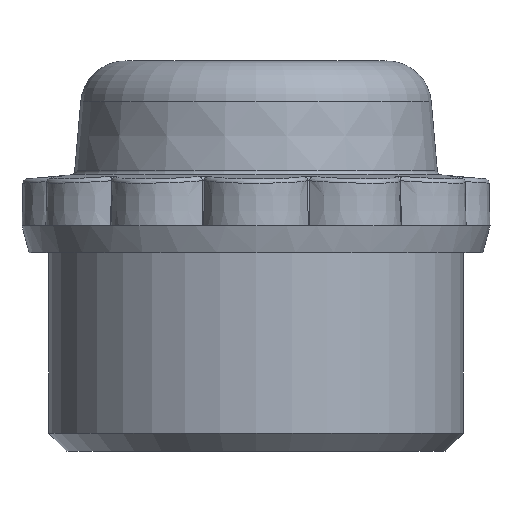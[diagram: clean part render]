
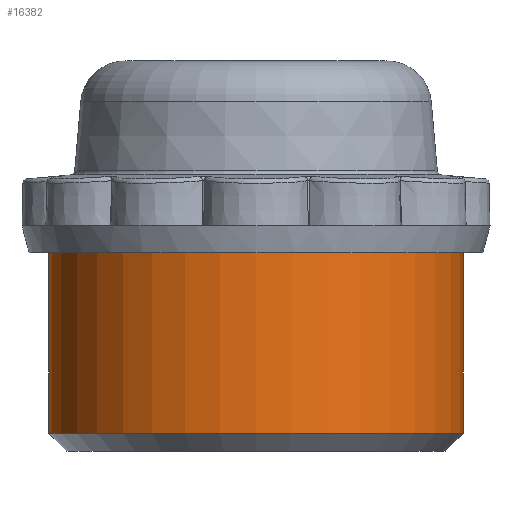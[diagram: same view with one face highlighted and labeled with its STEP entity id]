
A CAD part, left-side view. The second image highlights one B-rep face of the part: STEP entity #16382.
In plain terms, the highlighted cylindrical face has radius 9.3 mm (diameter 18.6 mm), a partial arc.
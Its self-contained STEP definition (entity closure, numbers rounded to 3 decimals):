
#16318 = EDGE_CURVE ( 'NONE', #16343, #16319, #18135, .T. ) ;
#16319 = VERTEX_POINT ( 'NONE', #18131 ) ;
#16322 = VERTEX_POINT ( 'NONE', #18125 ) ;
#16324 = EDGE_CURVE ( 'NONE', #16385, #16322, #18124, .T. ) ;
#16343 = VERTEX_POINT ( 'NONE', #18264 ) ;
#16367 = ORIENTED_EDGE ( 'NONE', *, *, #16381, .T. ) ;
#16368 = ORIENTED_EDGE ( 'NONE', *, *, #16324, .T. ) ;
#16369 = ORIENTED_EDGE ( 'NONE', *, *, #16370, .F. ) ;
#16370 = EDGE_CURVE ( 'NONE', #16319, #16322, #18086, .T. ) ;
#16381 = EDGE_CURVE ( 'NONE', #16343, #16385, #18212, .T. ) ;
#16382 = ADVANCED_FACE ( 'NONE', ( #18203 ), #18248, .T. ) ;
#16383 = EDGE_LOOP ( 'NONE', ( #16384, #16367, #16368, #16369 ) ) ;
#16384 = ORIENTED_EDGE ( 'NONE', *, *, #16318, .F. ) ;
#16385 = VERTEX_POINT ( 'NONE', #18243 ) ;
#18082 = DIRECTION ( 'NONE',  ( 0., -1., 0. ) ) ;
#18083 = DIRECTION ( 'NONE',  ( 0., 0., 1. ) ) ;
#18084 = CARTESIAN_POINT ( 'NONE',  ( 0., 0., -8.6 ) ) ;
#18085 = AXIS2_PLACEMENT_3D ( 'NONE', #18084, #18083, #18082 ) ;
#18086 = CIRCLE ( 'NONE', #18085, 9.3 ) ;
#18123 = CARTESIAN_POINT ( 'NONE',  ( 0., -9.3, 0. ) ) ;
#18124 = LINE ( 'NONE', #18123, #18189 ) ;
#18125 = CARTESIAN_POINT ( 'NONE',  ( 0., -9.3, -8.6 ) ) ;
#18131 = CARTESIAN_POINT ( 'NONE',  ( 0., 9.3, -8.6 ) ) ;
#18132 = DIRECTION ( 'NONE',  ( 0., 0., 1. ) ) ;
#18133 = VECTOR ( 'NONE', #18132, 1000. ) ;
#18134 = CARTESIAN_POINT ( 'NONE',  ( 0., 9.3, 0. ) ) ;
#18135 = LINE ( 'NONE', #18134, #18133 ) ;
#18188 = DIRECTION ( 'NONE',  ( 0., 0., 1. ) ) ;
#18189 = VECTOR ( 'NONE', #18188, 1000. ) ;
#18203 = FACE_OUTER_BOUND ( 'NONE', #16383, .T. ) ;
#18204 = DIRECTION ( 'NONE',  ( 0., -1., 0. ) ) ;
#18205 = DIRECTION ( 'NONE',  ( 0., 0., 1. ) ) ;
#18206 = CARTESIAN_POINT ( 'NONE',  ( 0., 0., -16.7 ) ) ;
#18207 = AXIS2_PLACEMENT_3D ( 'NONE', #18206, #18205, #18204 ) ;
#18212 = CIRCLE ( 'NONE', #18207, 9.3 ) ;
#18243 = CARTESIAN_POINT ( 'NONE',  ( 0., -9.3, -16.7 ) ) ;
#18244 = DIRECTION ( 'NONE',  ( 0., -1., 0. ) ) ;
#18245 = DIRECTION ( 'NONE',  ( 0., 0., 1. ) ) ;
#18246 = CARTESIAN_POINT ( 'NONE',  ( 0., 0., 0. ) ) ;
#18247 = AXIS2_PLACEMENT_3D ( 'NONE', #18246, #18245, #18244 ) ;
#18248 = CYLINDRICAL_SURFACE ( 'NONE', #18247, 9.3 ) ;
#18264 = CARTESIAN_POINT ( 'NONE',  ( 0., 9.3, -16.7 ) ) ;
